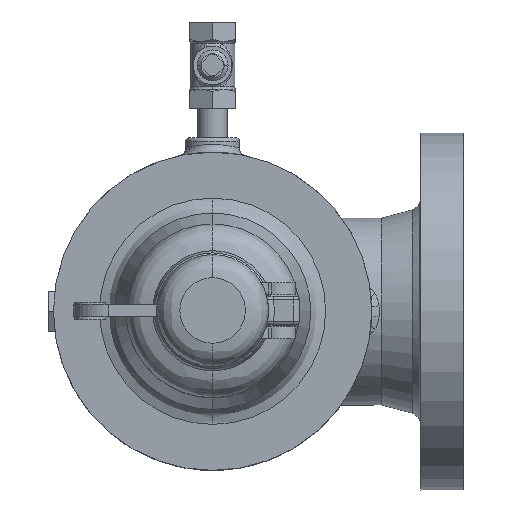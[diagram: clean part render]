
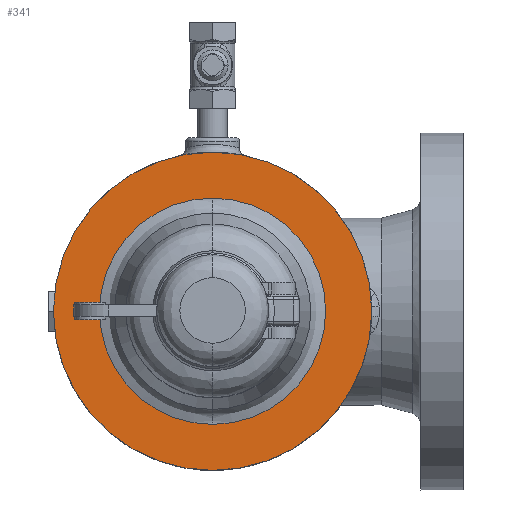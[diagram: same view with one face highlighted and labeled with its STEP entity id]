
A CAD part, top view. The second image highlights one B-rep face of the part: STEP entity #341.
In plain terms, the highlighted planar face has unit normal (0, 0, 1) as drawn and (0, 1, 0) by its records, which use the part's own axes.
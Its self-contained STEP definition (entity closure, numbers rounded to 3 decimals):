
#341=ADVANCED_FACE('',(#1388,#1389),#1387,.T.);
#1387=PLANE('',#9195);
#1388=FACE_OUTER_BOUND('',#9196,.T.);
#1389=FACE_BOUND('',#9197,.T.);
#9192=CARTESIAN_POINT('',(-152.894,94.,-175.));
#9193=DIRECTION('',(0.,1.,0.));
#9194=DIRECTION('',(0.,0.,1.));
#9195=AXIS2_PLACEMENT_3D('',#9192,#9193,#9194);
#9196=EDGE_LOOP('',(#19131,#19132));
#9197=EDGE_LOOP('',(#19133,#19134));
#19131=ORIENTED_EDGE('',*,*,#20991,.T.);
#19132=ORIENTED_EDGE('',*,*,#20992,.T.);
#19133=ORIENTED_EDGE('',*,*,#20993,.T.);
#19134=ORIENTED_EDGE('',*,*,#20994,.T.);
#20991=EDGE_CURVE('',#23792,#23793,#23794,.T.);
#20992=EDGE_CURVE('',#23793,#23792,#23800,.T.);
#20993=EDGE_CURVE('',#23806,#23807,#23808,.T.);
#20994=EDGE_CURVE('',#23807,#23806,#23814,.T.);
#23792=VERTEX_POINT('',#31153);
#23793=VERTEX_POINT('',#31154);
#23794=CIRCLE('',#31158,82.5);
#23800=CIRCLE('',#31162,82.5);
#23806=VERTEX_POINT('',#31163);
#23807=VERTEX_POINT('',#31164);
#23808=CIRCLE('',#31168,58.639);
#23814=CIRCLE('',#31172,58.639);
#31153=CARTESIAN_POINT('',(0.,94.,82.5));
#31154=CARTESIAN_POINT('',(0.,94.,-82.5));
#31155=CARTESIAN_POINT('',(0.,94.,0.));
#31156=DIRECTION('',(0.,1.,0.));
#31157=DIRECTION('',(0.,0.,1.));
#31158=AXIS2_PLACEMENT_3D('',#31155,#31156,#31157);
#31159=CARTESIAN_POINT('',(0.,94.,0.));
#31160=DIRECTION('',(0.,1.,0.));
#31161=DIRECTION('',(0.,0.,1.));
#31162=AXIS2_PLACEMENT_3D('',#31159,#31160,#31161);
#31163=CARTESIAN_POINT('',(0.,94.,58.639));
#31164=CARTESIAN_POINT('',(0.,94.,-58.639));
#31165=CARTESIAN_POINT('',(0.,94.,0.));
#31166=DIRECTION('',(0.,-1.,0.));
#31167=DIRECTION('',(0.,0.,1.));
#31168=AXIS2_PLACEMENT_3D('',#31165,#31166,#31167);
#31169=CARTESIAN_POINT('',(0.,94.,0.));
#31170=DIRECTION('',(0.,-1.,0.));
#31171=DIRECTION('',(0.,0.,1.));
#31172=AXIS2_PLACEMENT_3D('',#31169,#31170,#31171);
